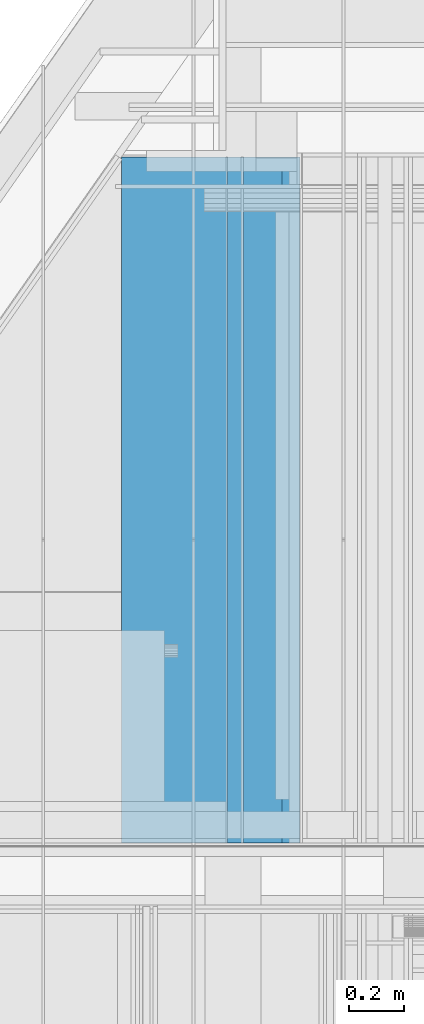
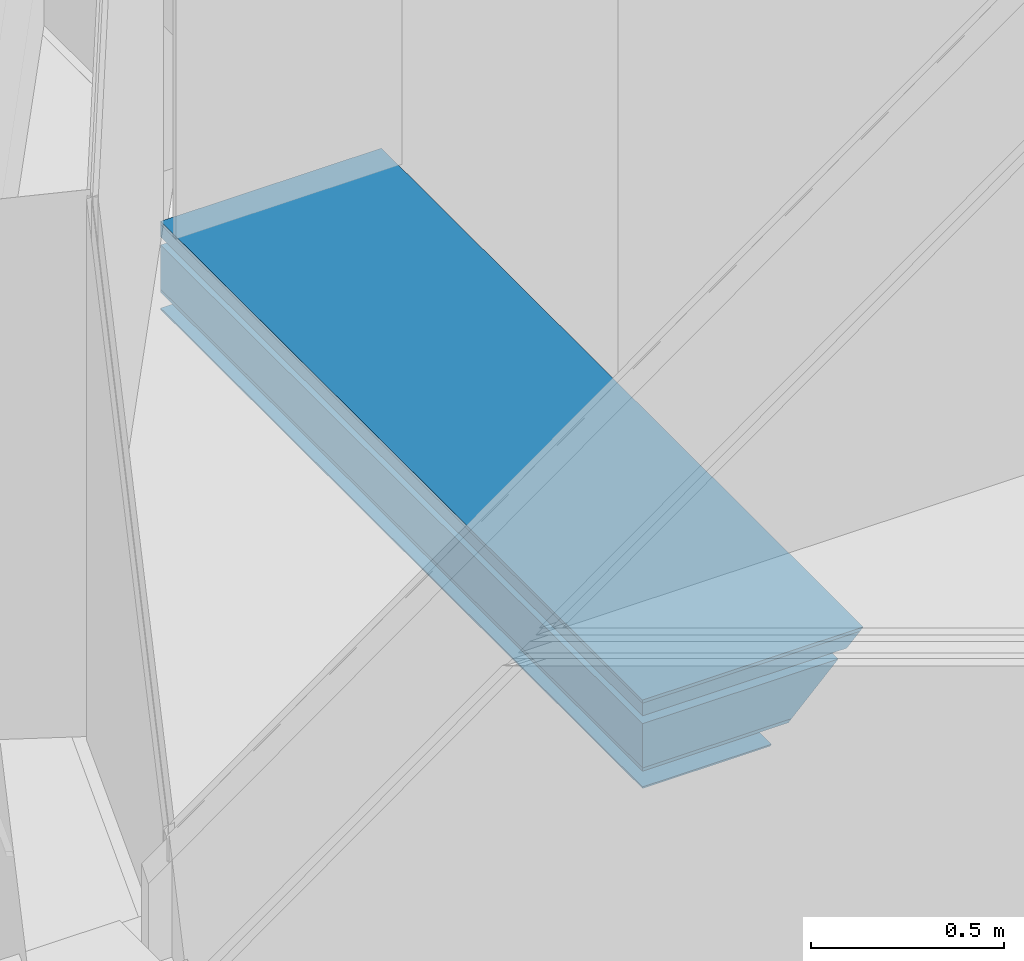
# One storey, part 153 of 583: 5 building element parts, 1 element without a shape of its own.
"""IFC2X3 building model written with IfcOpenShell, lengths in metres."""

from ifc_helpers import new_model, entity, si_unit, converted_unit, derived_unit, money_unit, direction, frame, origin_with_axes, place, context, subcontext, project, spatial, polyline, outline, extrude, material, type_object, element, aggregate, save


model = new_model("IFC2X3")

# Units and contexts
model_context = context("Model", 3, precision=1e-05, world=origin_with_axes(), true_north=direction((0.0, 1.0)))
body_context = subcontext(model_context, "Body", "Model", "MODEL_VIEW", scale=1.0)
ifc_project = project(units=[si_unit("LENGTHUNIT", "METRE"), si_unit("AREAUNIT", "SQUARE_METRE"), si_unit("VOLUMEUNIT", "CUBIC_METRE"), si_unit("ABSORBEDDOSEUNIT", "GRAY"), si_unit("AMOUNTOFSUBSTANCEUNIT", "MOLE"), si_unit("DOSEEQUIVALENTUNIT", "SIEVERT"), si_unit("ELECTRICCAPACITANCEUNIT", "FARAD"), si_unit("ELECTRICCHARGEUNIT", "COULOMB"), si_unit("ELECTRICCONDUCTANCEUNIT", "SIEMENS"), si_unit("ELECTRICCURRENTUNIT", "AMPERE"), si_unit("ELECTRICRESISTANCEUNIT", "OHM"), si_unit("ELECTRICVOLTAGEUNIT", "VOLT"), si_unit("ENERGYUNIT", "JOULE"), si_unit("FORCEUNIT", "NEWTON"), si_unit("FREQUENCYUNIT", "HERTZ"), si_unit("ILLUMINANCEUNIT", "LUX"), si_unit("INDUCTANCEUNIT", "HENRY"), si_unit("LUMINOUSFLUXUNIT", "LUMEN"), si_unit("LUMINOUSINTENSITYUNIT", "CANDELA"), si_unit("MAGNETICFLUXDENSITYUNIT", "TESLA"), si_unit("MAGNETICFLUXUNIT", "WEBER"), si_unit("MASSUNIT", "GRAM"), converted_unit("PLANEANGLEUNIT", "degree", entity("IfcReal", 0.0174532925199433), si_unit("PLANEANGLEUNIT", "RADIAN"), dimensions=[0, 0, 0, 0, 0, 0, 0]), si_unit("POWERUNIT", "WATT"), si_unit("PRESSUREUNIT", "PASCAL"), si_unit("RADIOACTIVITYUNIT", "BECQUEREL"), si_unit("SOLIDANGLEUNIT", "STERADIAN"), si_unit("THERMODYNAMICTEMPERATUREUNIT", "KELVIN"), si_unit("TIMEUNIT", "SECOND"), derived_unit("ACCELERATIONUNIT", [(si_unit("LENGTHUNIT", "METRE"), 1), (si_unit("TIMEUNIT", "SECOND"), -2)]), derived_unit("ANGULARVELOCITYUNIT", [(converted_unit("PLANEANGLEUNIT", "degree", entity("IfcReal", 0.0174532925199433), si_unit("PLANEANGLEUNIT", "RADIAN"), dimensions=[0, 0, 0, 0, 0, 0, 0]), 1), (si_unit("TIMEUNIT", "SECOND"), -1)]), derived_unit("CURVATUREUNIT", [(converted_unit("PLANEANGLEUNIT", "degree", entity("IfcReal", 0.0174532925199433), si_unit("PLANEANGLEUNIT", "RADIAN"), dimensions=[0, 0, 0, 0, 0, 0, 0]), 1), (si_unit("LENGTHUNIT", "METRE"), -1)]), derived_unit("DYNAMICVISCOSITYUNIT", [(si_unit("PRESSUREUNIT", "PASCAL"), 1), (si_unit("TIMEUNIT", "SECOND"), 1)]), derived_unit("HEATFLUXDENSITYUNIT", [(si_unit("POWERUNIT", "WATT"), 1), (si_unit("LENGTHUNIT", "METRE"), -2)]), derived_unit("HEATINGVALUEUNIT", [(si_unit("ENERGYUNIT", "JOULE"), 1), (si_unit("MASSUNIT", "GRAM"), -1)]), derived_unit("INTEGERCOUNTRATEUNIT", [(si_unit("TIMEUNIT", "SECOND"), -1)]), derived_unit("IONCONCENTRATIONUNIT", [(si_unit("MASSUNIT", "GRAM"), 1), (si_unit("VOLUMEUNIT", "CUBIC_METRE"), -1)]), derived_unit("ISOTHERMALMOISTURECAPACITYUNIT", [(si_unit("VOLUMEUNIT", "CUBIC_METRE"), 1), (si_unit("MASSUNIT", "GRAM"), -1)]), derived_unit("KINEMATICVISCOSITYUNIT", [(si_unit("AREAUNIT", "SQUARE_METRE"), 1), (si_unit("TIMEUNIT", "SECOND"), -1)]), derived_unit("LINEARFORCEUNIT", [(si_unit("FORCEUNIT", "NEWTON"), 1), (si_unit("LENGTHUNIT", "METRE"), -1)]), derived_unit("LINEARMOMENTUNIT", [(si_unit("FORCEUNIT", "NEWTON"), 1), (si_unit("LENGTHUNIT", "METRE"), -1)]), derived_unit("LINEARSTIFFNESSUNIT", [(si_unit("FORCEUNIT", "NEWTON"), 1), (si_unit("LENGTHUNIT", "METRE"), -1)]), derived_unit("LINEARVELOCITYUNIT", [(si_unit("LENGTHUNIT", "METRE"), 1), (si_unit("TIMEUNIT", "SECOND"), -1)]), derived_unit("LUMINOUSINTENSITYDISTRIBUTIONUNIT", [(si_unit("LUMINOUSINTENSITYUNIT", "CANDELA"), 1), (si_unit("LUMINOUSFLUXUNIT", "LUMEN"), -1)]), derived_unit("MASSDENSITYUNIT", [(si_unit("MASSUNIT", "GRAM"), 1), (si_unit("VOLUMEUNIT", "CUBIC_METRE"), -1)]), derived_unit("MASSFLOWRATEUNIT", [(si_unit("MASSUNIT", "GRAM"), 1), (si_unit("TIMEUNIT", "SECOND"), -1)]), derived_unit("MASSPERLENGTHUNIT", [(si_unit("MASSUNIT", "GRAM"), 1), (si_unit("LENGTHUNIT", "METRE"), -1)]), derived_unit("MODULUSOFELASTICITYUNIT", [(si_unit("FORCEUNIT", "NEWTON"), 1), (si_unit("AREAUNIT", "SQUARE_METRE"), -1)]), derived_unit("MODULUSOFLINEARSUBGRADEREACTIONUNIT", [(si_unit("FORCEUNIT", "NEWTON"), 1), (si_unit("LENGTHUNIT", "METRE"), -2)]), derived_unit("MODULUSOFROTATIONALSUBGRADEREACTIONUNIT", [(si_unit("FORCEUNIT", "NEWTON"), 1), (si_unit("LENGTHUNIT", "METRE"), 1)]), derived_unit("MODULUSOFSUBGRADEREACTIONUNIT", [(si_unit("FORCEUNIT", "NEWTON"), 1), (si_unit("VOLUMEUNIT", "CUBIC_METRE"), -1)]), derived_unit("MOISTUREDIFFUSIVITYUNIT", [(si_unit("VOLUMEUNIT", "CUBIC_METRE"), 1), (si_unit("TIMEUNIT", "SECOND"), -1)]), derived_unit("MOLECULARWEIGHTUNIT", [(si_unit("MASSUNIT", "GRAM"), 1), (si_unit("AMOUNTOFSUBSTANCEUNIT", "MOLE"), -1)]), derived_unit("PLANARFORCEUNIT", [(si_unit("FORCEUNIT", "NEWTON"), 1), (si_unit("LENGTHUNIT", "METRE"), -2)]), derived_unit("ROTATIONALFREQUENCYUNIT", [(si_unit("TIMEUNIT", "SECOND"), -1)]), derived_unit("ROTATIONALMASSUNIT", [(si_unit("MASSUNIT", "GRAM"), 1), (si_unit("LENGTHUNIT", "METRE"), 2)]), derived_unit("ROTATIONALSTIFFNESSUNIT", [(si_unit("FORCEUNIT", "NEWTON"), 1), (si_unit("LENGTHUNIT", "METRE"), 1), (converted_unit("PLANEANGLEUNIT", "degree", entity("IfcReal", 0.0174532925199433), si_unit("PLANEANGLEUNIT", "RADIAN"), dimensions=[0, 0, 0, 0, 0, 0, 0]), -1)]), derived_unit("SECTIONAREAINTEGRALUNIT", [(si_unit("LENGTHUNIT", "METRE"), 5)]), derived_unit("SECTIONMODULUSUNIT", [(si_unit("LENGTHUNIT", "METRE"), 3)]), derived_unit("SHEARMODULUSUNIT", [(si_unit("FORCEUNIT", "NEWTON"), 1), (si_unit("AREAUNIT", "SQUARE_METRE"), -1)]), derived_unit("SOUNDPOWERUNIT", [(si_unit("ENERGYUNIT", "JOULE"), 1), (si_unit("TIMEUNIT", "SECOND"), -1)]), derived_unit("SPECIFICHEATCAPACITYUNIT", [(si_unit("FORCEUNIT", "NEWTON"), 1), (si_unit("MASSUNIT", "GRAM"), -1), (si_unit("THERMODYNAMICTEMPERATUREUNIT", "KELVIN"), -1)]), derived_unit("TEMPERATUREGRADIENTUNIT", [(si_unit("THERMODYNAMICTEMPERATUREUNIT", "KELVIN"), 1), (si_unit("LENGTHUNIT", "METRE"), -1)]), derived_unit("THERMALADMITTANCEUNIT", [(si_unit("POWERUNIT", "WATT"), 1), (si_unit("AREAUNIT", "SQUARE_METRE"), -1), (si_unit("THERMODYNAMICTEMPERATUREUNIT", "KELVIN"), -1)]), derived_unit("THERMALCONDUCTANCEUNIT", [(si_unit("POWERUNIT", "WATT"), 1), (si_unit("LENGTHUNIT", "METRE"), -1), (si_unit("THERMODYNAMICTEMPERATUREUNIT", "KELVIN"), -1)]), derived_unit("THERMALEXPANSIONCOEFFICIENTUNIT", [(si_unit("THERMODYNAMICTEMPERATUREUNIT", "KELVIN"), -1)]), derived_unit("THERMALRESISTANCEUNIT", [(si_unit("AREAUNIT", "SQUARE_METRE"), 1), (si_unit("POWERUNIT", "WATT"), -1)]), derived_unit("THERMALTRANSMITTANCEUNIT", [(si_unit("POWERUNIT", "WATT"), 1), (si_unit("AREAUNIT", "SQUARE_METRE"), -1), (si_unit("THERMODYNAMICTEMPERATUREUNIT", "KELVIN"), -1)]), derived_unit("TORQUEUNIT", [(si_unit("FORCEUNIT", "NEWTON"), 1), (si_unit("LENGTHUNIT", "METRE"), 1)]), derived_unit("VAPORPERMEABILITYUNIT", [(si_unit("MASSUNIT", "GRAM"), 1), (si_unit("TIMEUNIT", "SECOND"), -1)]), derived_unit("VOLUMETRICFLOWRATEUNIT", [(si_unit("VOLUMEUNIT", "CUBIC_METRE"), 1), (si_unit("TIMEUNIT", "SECOND"), -1)]), derived_unit("WARPINGCONSTANTUNIT", [(si_unit("LENGTHUNIT", "METRE"), 6)]), derived_unit("WARPINGMOMENTUNIT", [(si_unit("FORCEUNIT", "NEWTON"), 1), (si_unit("LENGTHUNIT", "METRE"), 2)]), money_unit("GBP")], contexts=[model_context])

# Site, building, storey
site_placement = place(None, origin_with_axes())
site = spatial("IfcSite", under=ifc_project, at=site_placement, Name="Site", CompositionType="ELEMENT")
building_placement = place(site_placement, origin_with_axes())
building = spatial("IfcBuilding", under=site, at=building_placement, Name="Building01", CompositionType="ELEMENT")
storey_placement = place(building_placement, frame((0.0, 0.0, 20.78), z_axis=(0.0, 0.0, 1.0), x_axis=(1.0, 0.0, 0.0)))
storey = spatial("IfcBuildingStorey", under=building, at=storey_placement, Name="RL", CompositionType="ELEMENT", Elevation=20.78)

# Wall, building element parts
wall_type = type_object("IfcWallType", Name="SHE_A-Walls_Type06e_ExternalWallPenthouse_280mm", PredefinedType="NOTDEFINED")
wall_placement = place(storey_placement, frame((3.264939, 17.68, 1.224976), z_axis=(0.0, 1.0, 0.0), x_axis=(-1.0, 0.0, 0.0)))
wall = element("IfcWall", 1, at=wall_placement, inside=storey, type_object=wall_type, Name="6E", ObjectType="SHE_A-Walls_Type06e_ExternalWallPenthouse_280mm")
ifc_material_1 = material(Name="A_BSUK_Insulation")
placement = place(wall_placement, origin_with_axes())
building_element_part_1 = element("IfcBuildingElementPart", 2, at=placement, material=ifc_material_1, Name="1", context=body_context, shape_type="SweptSolid", body=[
    extrude(outline(polyline([(-0.14, 0.14), (0.0, 0.0), (0.446333, 0.0), (0.446333, 0.14), (-0.14, 0.14)])), origin_with_axes(), (0.0, 0.0, 1.0), 2.5),
])
building_element_part_2 = element("IfcBuildingElementPart", 3, at=placement, material=ifc_material_1, Name="2", context=body_context, shape_type="SweptSolid", body=[
    extrude(outline(polyline([(-0.205, 0.205), (-0.165, 0.165), (0.446333, 0.165), (0.446333, 0.205), (-0.205, 0.205)])), origin_with_axes(), (0.0, 0.0, 1.0), 2.5),
])
ifc_material_2 = material(Name="A_BSUK_WallInternal_Finishes_Plasterboard")
building_element_part_3 = element("IfcBuildingElementPart", 4, at=placement, material=ifc_material_2, Name="4", context=body_context, shape_type="SweptSolid", body=[
    extrude(outline(polyline([(-0.215, 0.215), (-0.205, 0.205), (0.446333, 0.205), (0.446333, 0.215), (-0.215, 0.215)])), origin_with_axes(), (0.0, 0.0, 1.0), 2.5),
])
ifc_material_3 = material(Name="A_BSUK_Walls_Timber")
building_element_part_4 = element("IfcBuildingElementPart", 5, at=placement, material=ifc_material_3, Name="5", context=body_context, shape_type="SweptSolid", body=[
    extrude(outline(polyline([(0.0, 0.0), (0.01, -0.01), (0.446333, -0.01), (0.446333, 0.0), (0.0, 0.0)])), origin_with_axes(), (0.0, 0.0, 1.0), 2.5),
])
ifc_material_4 = material(Name="A_BSUK_WallInternal_Finishes_Metal")
building_element_part_5 = element("IfcBuildingElementPart", 6, at=placement, material=ifc_material_4, Name="6", context=body_context, shape_type="SweptSolid", body=[
    extrude(outline(polyline([(0.06, -0.06), (0.065, -0.065), (0.446333, -0.065), (0.446333, -0.06), (0.06, -0.06)])), origin_with_axes(), (0.0, 0.0, 1.0), 2.5),
])
aggregate(wall, [building_element_part_1, building_element_part_2, building_element_part_3, building_element_part_4, building_element_part_5])

save(model, "model.ifc")
